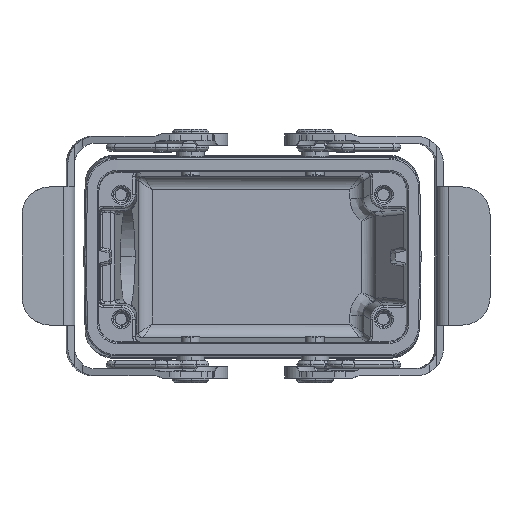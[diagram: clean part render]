
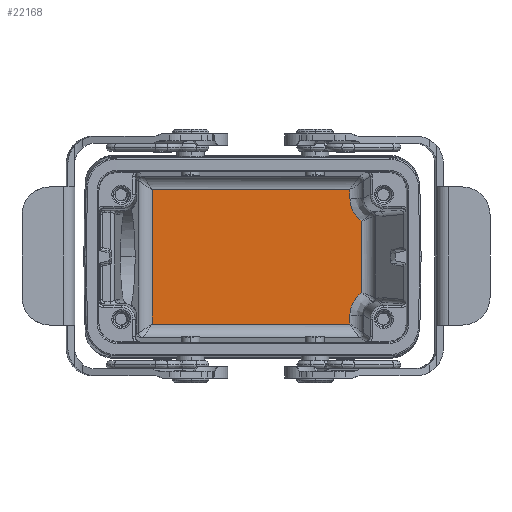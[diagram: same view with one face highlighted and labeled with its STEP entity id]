
A CAD part, front view. The second image highlights one B-rep face of the part: STEP entity #22168.
In plain terms, the highlighted planar face has unit normal (0.009, -1, 0) as drawn and (0, -1, 0) by its records, which use the part's own axes.
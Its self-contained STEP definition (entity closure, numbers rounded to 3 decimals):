
#90 = VERTEX_POINT ( 'NONE', #1043 ) ;
#261 = ORIENTED_EDGE ( 'NONE', *, *, #29872, .F. ) ;
#592 = VECTOR ( 'NONE', #25999, 1000. ) ;
#1043 = CARTESIAN_POINT ( 'NONE',  ( -21.227, 70., 14.564 ) ) ;
#1118 = CARTESIAN_POINT ( 'NONE',  ( 24.259, 70., 0. ) ) ;
#1476 = DIRECTION ( 'NONE',  ( 0., 0., 1. ) ) ;
#1581 = DIRECTION ( 'NONE',  ( 0., 1., 0. ) ) ;
#1604 = CARTESIAN_POINT ( 'NONE',  ( 22.663, 70., 9.358 ) ) ;
#1902 = CARTESIAN_POINT ( 'NONE',  ( 24.259, 70., 7.77 ) ) ;
#2000 = CARTESIAN_POINT ( 'NONE',  ( 21.724, 70., 11.909 ) ) ;
#3303 = CARTESIAN_POINT ( 'NONE',  ( 22.558, 70., -9.583 ) ) ;
#3389 = ORIENTED_EDGE ( 'NONE', *, *, #29224, .F. ) ;
#3411 = CARTESIAN_POINT ( 'NONE',  ( 21.692, 70., -12.326 ) ) ;
#3506 = CARTESIAN_POINT ( 'NONE',  ( 21.691, 70., -12.691 ) ) ;
#5651 = CARTESIAN_POINT ( 'NONE',  ( 21.725, 70., -11.901 ) ) ;
#5877 = DIRECTION ( 'NONE',  ( 0., 0., -1. ) ) ;
#6049 = CARTESIAN_POINT ( 'NONE',  ( 0., 70., 0. ) ) ;
#7893 = VERTEX_POINT ( 'NONE', #17287 ) ;
#8637 = CARTESIAN_POINT ( 'NONE',  ( 22.126, 70., 10.443 ) ) ;
#8837 = CARTESIAN_POINT ( 'NONE',  ( 21.691, 70., 12.691 ) ) ;
#9009 = CARTESIAN_POINT ( 'NONE',  ( 21.691, 70., -14.564 ) ) ;
#9627 = CARTESIAN_POINT ( 'NONE',  ( 0., 70., 14.564 ) ) ;
#9712 = VECTOR ( 'NONE', #21344, 1000. ) ;
#10020 = CARTESIAN_POINT ( 'NONE',  ( 21.691, 70., 0. ) ) ;
#10054 = ORIENTED_EDGE ( 'NONE', *, *, #15684, .F. ) ;
#10573 = CARTESIAN_POINT ( 'NONE',  ( 24.259, 70., -7.769 ) ) ;
#10891 = VERTEX_POINT ( 'NONE', #9009 ) ;
#10903 = CARTESIAN_POINT ( 'NONE',  ( 22.288, 70., 10.081 ) ) ;
#11084 = ORIENTED_EDGE ( 'NONE', *, *, #16717, .F. ) ;
#11400 = VERTEX_POINT ( 'NONE', #19109 ) ;
#11517 = CARTESIAN_POINT ( 'NONE',  ( 131.663, 70., -14.564 ) ) ;
#11534 = AXIS2_PLACEMENT_3D ( 'NONE', #6049, #1581, #1476 ) ;
#12106 = EDGE_CURVE ( 'NONE', #90, #7893, #17164, .T. ) ;
#12624 = CARTESIAN_POINT ( 'NONE',  ( 23.981, 70., -7.963 ) ) ;
#12682 = LINE ( 'NONE', #10020, #9712 ) ;
#12726 = CARTESIAN_POINT ( 'NONE',  ( 22.445, 70., -9.779 ) ) ;
#12938 = CARTESIAN_POINT ( 'NONE',  ( 22.408, 70., -9.847 ) ) ;
#13747 = ORIENTED_EDGE ( 'NONE', *, *, #15762, .F. ) ;
#14009 = ORIENTED_EDGE ( 'NONE', *, *, #16444, .F. ) ;
#14257 = VECTOR ( 'NONE', #25863, 1000. ) ;
#14491 = CARTESIAN_POINT ( 'NONE',  ( 21.691, 70., -12.691 ) ) ;
#14939 = CARTESIAN_POINT ( 'NONE',  ( 22.096, 70., -10.444 ) ) ;
#14952 = VECTOR ( 'NONE', #15731, 1000. ) ;
#15248 = CARTESIAN_POINT ( 'NONE',  ( 23.66, 70., -8.221 ) ) ;
#15365 = DIRECTION ( 'NONE',  ( 0., 0., -1. ) ) ;
#15557 = CARTESIAN_POINT ( 'NONE',  ( 22.337, 70., 9.982 ) ) ;
#15603 = VERTEX_POINT ( 'NONE', #20330 ) ;
#15663 = CARTESIAN_POINT ( 'NONE',  ( 22.076, 70., 10.573 ) ) ;
#15684 = EDGE_CURVE ( 'NONE', #11400, #24264, #16653, .T. ) ;
#15731 = DIRECTION ( 'NONE',  ( 0., 0., 1. ) ) ;
#15762 = EDGE_CURVE ( 'NONE', #7893, #20963, #18426, .T. ) ;
#16368 = LINE ( 'NONE', #27571, #14952 ) ;
#16444 = EDGE_CURVE ( 'NONE', #30012, #10891, #12682, .T. ) ;
#16653 = LINE ( 'NONE', #1118, #20627 ) ;
#16717 = EDGE_CURVE ( 'NONE', #20963, #11400, #20030, .T. ) ;
#17164 = LINE ( 'NONE', #9627, #14257 ) ;
#17266 = CARTESIAN_POINT ( 'NONE',  ( 23.165, 70., -8.746 ) ) ;
#17287 = CARTESIAN_POINT ( 'NONE',  ( 21.691, 70., 14.564 ) ) ;
#17367 = CARTESIAN_POINT ( 'NONE',  ( 21.926, 70., -10.96 ) ) ;
#17561 = CARTESIAN_POINT ( 'NONE',  ( 22.997, 70., -8.943 ) ) ;
#17657 = PLANE ( 'NONE',  #11534 ) ;
#17729 = CARTESIAN_POINT ( 'NONE',  ( 24.259, 70., -7.769 ) ) ;
#17864 = CARTESIAN_POINT ( 'NONE',  ( 23.667, 70., 8.216 ) ) ;
#17970 = CARTESIAN_POINT ( 'NONE',  ( 23.986, 70., 7.96 ) ) ;
#18065 = CARTESIAN_POINT ( 'NONE',  ( 22.353, 70., 9.95 ) ) ;
#18161 = CARTESIAN_POINT ( 'NONE',  ( 21.941, 70., 10.956 ) ) ;
#18248 = CARTESIAN_POINT ( 'NONE',  ( 22.211, 70., 10.247 ) ) ;
#18358 = ORIENTED_EDGE ( 'NONE', *, *, #12106, .F. ) ;
#18426 = LINE ( 'NONE', #22327, #20995 ) ;
#19109 = CARTESIAN_POINT ( 'NONE',  ( 24.259, 70., 7.77 ) ) ;
#20030 = B_SPLINE_CURVE_WITH_KNOTS ( 'NONE', 3,
 ( #8837, #29648, #2000, #25074, #18161, #15663, #8637, #18248, #24790, #10903, #29841, #15557, #18065, #1604, #22725, #17864, #17970, #1902 ),
 .UNSPECIFIED., .F., .F.,
 ( 4, 2, 2, 2, 2, 2, 2, 2, 4 ),
 ( 0., 0.25, 0.375, 0.437, 0.469, 0.484, 0.5, 0.75, 1. ),
 .UNSPECIFIED. ) ;
#20200 = LINE ( 'NONE', #11517, #592 ) ;
#20330 = CARTESIAN_POINT ( 'NONE',  ( -21.227, 70., -14.564 ) ) ;
#20627 = VECTOR ( 'NONE', #15365, 1000. ) ;
#20963 = VERTEX_POINT ( 'NONE', #22061 ) ;
#20995 = VECTOR ( 'NONE', #5877, 1000. ) ;
#21344 = DIRECTION ( 'NONE',  ( 0., 0., -1. ) ) ;
#21768 = EDGE_CURVE ( 'NONE', #15603, #10891, #20200, .T. ) ;
#22061 = CARTESIAN_POINT ( 'NONE',  ( 21.691, 70., 12.691 ) ) ;
#22168 = ADVANCED_FACE ( 'NONE', ( #27501 ), #17657, .F. ) ;
#22327 = CARTESIAN_POINT ( 'NONE',  ( 21.691, 70., 0. ) ) ;
#22725 = CARTESIAN_POINT ( 'NONE',  ( 23.005, 70., 8.913 ) ) ;
#24264 = VERTEX_POINT ( 'NONE', #17729 ) ;
#24474 = CARTESIAN_POINT ( 'NONE',  ( 22.674, 70., -9.396 ) ) ;
#24790 = CARTESIAN_POINT ( 'NONE',  ( 22.241, 70., 10.181 ) ) ;
#25074 = CARTESIAN_POINT ( 'NONE',  ( 21.874, 70., 11.203 ) ) ;
#25863 = DIRECTION ( 'NONE',  ( 1., 0., 0. ) ) ;
#25999 = DIRECTION ( 'NONE',  ( 1., 0., 0. ) ) ;
#26578 = CARTESIAN_POINT ( 'NONE',  ( 22.754, 70., -9.278 ) ) ;
#27112 = B_SPLINE_CURVE_WITH_KNOTS ( 'NONE', 3,
 ( #10573, #12624, #15248, #17266, #17561, #26578, #24474, #3303, #29135, #12726, #12938, #28842, #14939, #17367, #5651, #3411, #3506 ),
 .UNSPECIFIED., .F., .F.,
 ( 4, 2, 2, 2, 1, 2, 2, 2, 4 ),
 ( 0., 0.25, 0.375, 0.438, 0.469, 0.484, 0.5, 0.75, 1. ),
 .UNSPECIFIED. ) ;
#27501 = FACE_OUTER_BOUND ( 'NONE', #28247, .T. ) ;
#27571 = CARTESIAN_POINT ( 'NONE',  ( -21.227, 70., 0. ) ) ;
#28247 = EDGE_LOOP ( 'NONE', ( #18358, #261, #28769, #14009, #3389, #10054, #11084, #13747 ) ) ;
#28769 = ORIENTED_EDGE ( 'NONE', *, *, #21768, .T. ) ;
#28842 = CARTESIAN_POINT ( 'NONE',  ( 22.389, 70., -9.882 ) ) ;
#29135 = CARTESIAN_POINT ( 'NONE',  ( 22.501, 70., -9.679 ) ) ;
#29224 = EDGE_CURVE ( 'NONE', #24264, #30012, #27112, .T. ) ;
#29648 = CARTESIAN_POINT ( 'NONE',  ( 21.692, 70., 12.331 ) ) ;
#29841 = CARTESIAN_POINT ( 'NONE',  ( 22.304, 70., 10.048 ) ) ;
#29872 = EDGE_CURVE ( 'NONE', #15603, #90, #16368, .T. ) ;
#30012 = VERTEX_POINT ( 'NONE', #14491 ) ;
